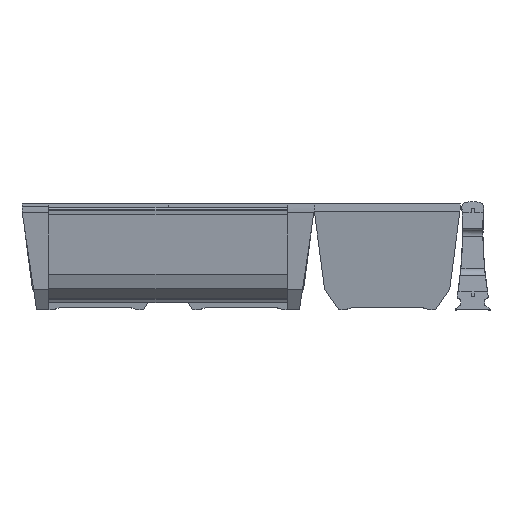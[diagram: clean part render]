
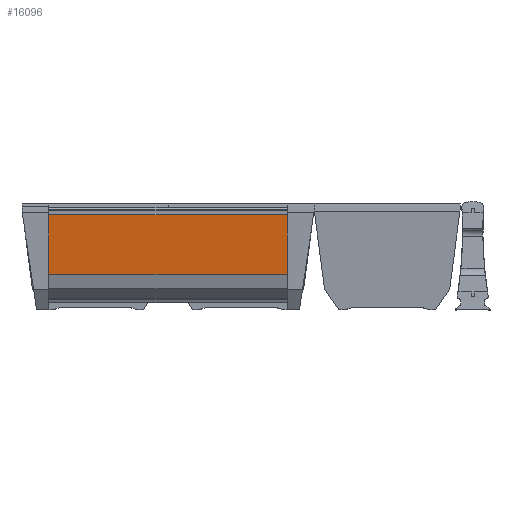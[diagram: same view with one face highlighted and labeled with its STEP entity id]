
A CAD part, front view. The second image highlights one B-rep face of the part: STEP entity #16096.
In plain terms, the highlighted planar face has unit normal (0, -0.991, -0.131).
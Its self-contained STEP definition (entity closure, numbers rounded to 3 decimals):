
#8 = DIRECTION ( 'NONE',  ( 0., 0.131, -0.991 ) ) ;
#2621 = EDGE_CURVE ( 'NONE', #9998, #9966, #34087, .T. ) ;
#2643 = EDGE_CURVE ( 'NONE', #9989, #9988, #34134, .T. ) ;
#2658 = EDGE_CURVE ( 'NONE', #9988, #9966, #34206, .T. ) ;
#2660 = EDGE_CURVE ( 'NONE', #9998, #9989, #34207, .T. ) ;
#2706 = DIRECTION ( 'NONE',  ( 0., -0.131, 0.991 ) ) ;
#2707 = CARTESIAN_POINT ( 'NONE',  ( 16.5, 8.199, 21.942 ) ) ;
#4085 = ORIENTED_EDGE ( 'NONE', *, *, #2643, .F. ) ;
#4087 = ORIENTED_EDGE ( 'NONE', *, *, #2658, .F. ) ;
#4089 = ORIENTED_EDGE ( 'NONE', *, *, #2621, .T. ) ;
#4091 = ORIENTED_EDGE ( 'NONE', *, *, #2660, .F. ) ;
#4626 = CARTESIAN_POINT ( 'NONE',  ( 164.5, 8.199, 21.942 ) ) ;
#6382 = CARTESIAN_POINT ( 'NONE',  ( 170., 8.199, 21.942 ) ) ;
#6385 = DIRECTION ( 'NONE',  ( -1., 0., 0. ) ) ;
#6456 = DIRECTION ( 'NONE',  ( -1., 0., 0. ) ) ;
#6463 = CARTESIAN_POINT ( 'NONE',  ( 170., 2.926, 61.998 ) ) ;
#9966 = VERTEX_POINT ( 'NONE', #26960 ) ;
#9988 = VERTEX_POINT ( 'NONE', #26997 ) ;
#9989 = VERTEX_POINT ( 'NONE', #26998 ) ;
#9998 = VERTEX_POINT ( 'NONE', #27013 ) ;
#16096 = ADVANCED_FACE ( 'NONE', ( #22959 ), #18305, .F. ) ;
#17924 = AXIS2_PLACEMENT_3D ( 'NONE', #18302, #18313, #18314 ) ;
#18302 = CARTESIAN_POINT ( 'NONE',  ( 170., 8.199, 21.942 ) ) ;
#18305 = PLANE ( 'NONE',  #17924 ) ;
#18313 = DIRECTION ( 'NONE',  ( 0., 0.991, 0.131 ) ) ;
#18314 = DIRECTION ( 'NONE',  ( 0., -0.131, 0.991 ) ) ;
#22959 = FACE_OUTER_BOUND ( 'NONE', #36293, .T. ) ;
#26960 = CARTESIAN_POINT ( 'NONE',  ( 16.5, 2.926, 61.998 ) ) ;
#26997 = CARTESIAN_POINT ( 'NONE',  ( 16.5, 8.199, 21.942 ) ) ;
#26998 = CARTESIAN_POINT ( 'NONE',  ( 164.5, 8.199, 21.942 ) ) ;
#27013 = CARTESIAN_POINT ( 'NONE',  ( 164.5, 2.926, 61.998 ) ) ;
#34062 = VECTOR ( 'NONE', #6456, 1000. ) ;
#34087 = LINE ( 'NONE', #6463, #34062 ) ;
#34134 = LINE ( 'NONE', #6382, #34165 ) ;
#34165 = VECTOR ( 'NONE', #6385, 1000. ) ;
#34206 = LINE ( 'NONE', #2707, #34208 ) ;
#34207 = LINE ( 'NONE', #4626, #34210 ) ;
#34208 = VECTOR ( 'NONE', #2706, 1000. ) ;
#34210 = VECTOR ( 'NONE', #8, 1000. ) ;
#36293 = EDGE_LOOP ( 'NONE', ( #4091, #4089, #4087, #4085 ) ) ;
